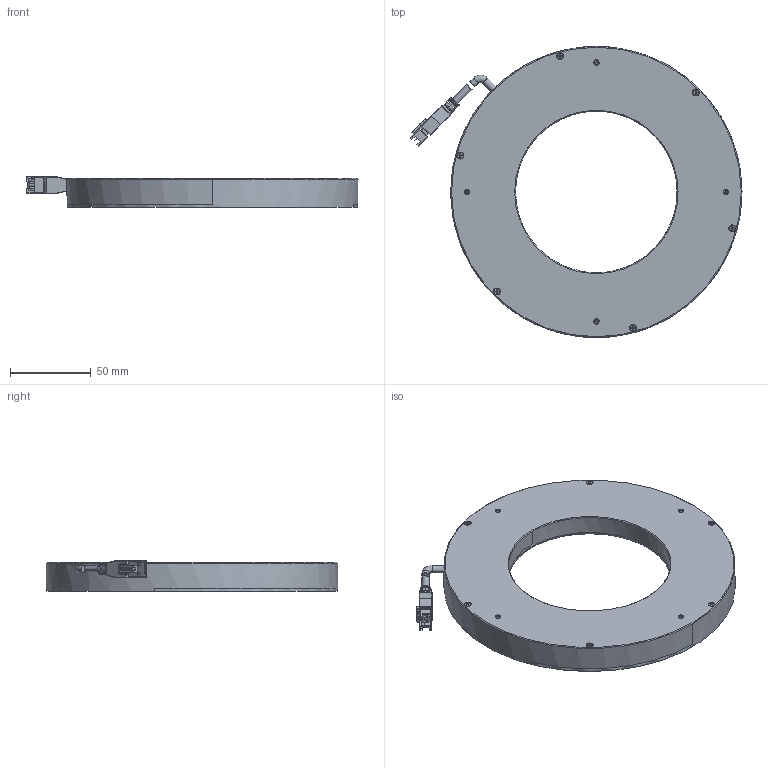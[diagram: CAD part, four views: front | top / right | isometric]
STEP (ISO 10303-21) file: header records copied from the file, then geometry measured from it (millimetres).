
FILE_DESCRIPTION((''),'2;1');
FILE_NAME('180-60','2024-01-30T14:21:31',('qiaoxuan5'),(''),'CREO PARAMETRIC BY PTC INC, 2020044','CREO PARAMETRIC BY PTC INC, 2020044','');
FILE_SCHEMA(('CONFIG_CONTROL_DESIGN'));
Length unit declared in the file: millimetre
Products named in the file (1): 180-60
Bounding box: 205.19 x 180 x 19 mm (x, y, z)
Volume: 306917.9 mm3; surface area: 64048.4 mm2
Topology: 2 solids, 54 shells, 959 faces, 2291 edges, 1410 vertices
Faces by surface type: plane 502, cylinder 280, cone 122, torus 38, sphere 8, bspline 8, extrusion 1
Entity records: 30807 total; most frequent: CARTESIAN_POINT 8680, DIRECTION 4687, ORIENTED_EDGE 4390, EDGE_CURVE 2251, AXIS2_PLACEMENT_3D 1695, VERTEX_POINT 1410, VECTOR 1297, LINE 1296
